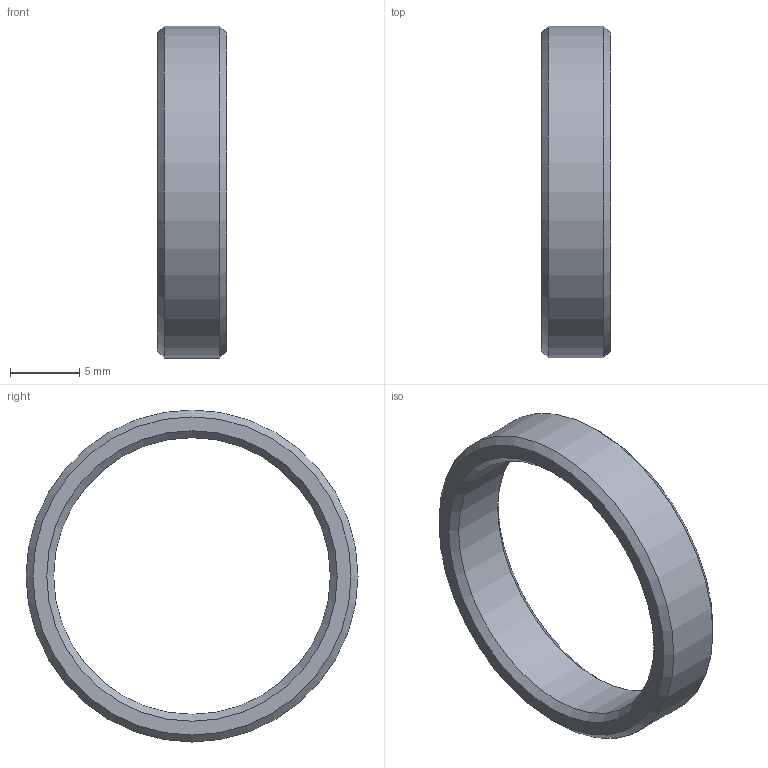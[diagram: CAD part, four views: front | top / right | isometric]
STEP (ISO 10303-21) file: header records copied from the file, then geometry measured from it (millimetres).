
FILE_DESCRIPTION(/* description */ (''),/* implementation_level */ '2;1');
FILE_NAME(/* name */ '',/* time_stamp */ '2025-11-19T16:40:00+09:00',/* author */ ('jhkim'),/* organization */ (''),/* preprocessor_version */ 'ST-DEVELOPER v20.1',/* originating_system */ 'Autodesk Inventor 2026',/* authorisation */ '');
FILE_SCHEMA (('AUTOMOTIVE_DESIGN { 1 0 10303 214 3 1 1 }'));
Length unit declared in the file: millimetre
Products named in the file (1): 칼라 2
Bounding box: 5 x 24 x 24 mm (x, y, z)
Volume: 656.6 mm3; surface area: 886.6 mm2
Topology: 1 solids, 1 shells, 8 faces, 16 edges, 10 vertices
Faces by surface type: cone 4, plane 2, cylinder 2
Full cylindrical faces by diameter (mm): 20 x1, 24 x1
Entity records: 261 total; most frequent: DIRECTION 44, CARTESIAN_POINT 35, ORIENTED_EDGE 32, AXIS2_PLACEMENT_3D 19, EDGE_CURVE 16, EDGE_LOOP 10, CIRCLE 10, VERTEX_POINT 10
